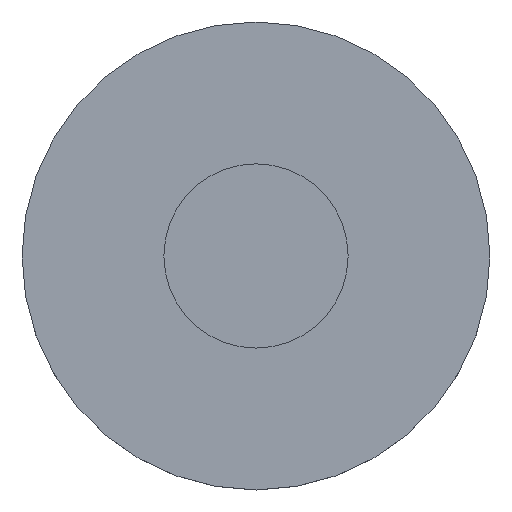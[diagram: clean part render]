
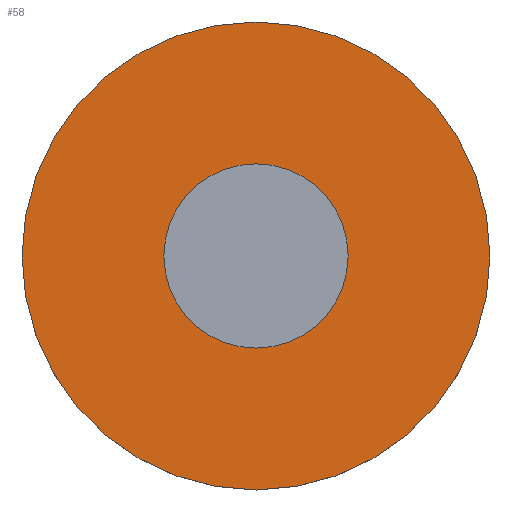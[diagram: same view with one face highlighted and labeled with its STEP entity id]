
A CAD part, top view. The second image highlights one B-rep face of the part: STEP entity #58.
In plain terms, the highlighted planar face has unit normal (0, 0, 1).
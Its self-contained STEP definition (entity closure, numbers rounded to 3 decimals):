
#58=ADVANCED_FACE('',(#72),#73,.T.);
#72=FACE_OUTER_BOUND('',#90,.T.);
#73=PLANE('',#91);
#90=EDGE_LOOP('',(#126,#127));
#91=AXIS2_PLACEMENT_3D('',#128,#129,#130);
#126=ORIENTED_EDGE('',*,*,#158,.T.);
#127=ORIENTED_EDGE('',*,*,#162,.T.);
#128=CARTESIAN_POINT('',(0.0,0.0,4.5));
#129=DIRECTION('',(0.0,0.0,1.0));
#130=DIRECTION('',(1.0,0.0,0.0));
#158=EDGE_CURVE('',#170,#174,#176,.T.);
#162=EDGE_CURVE('',#174,#170,#181,.T.);
#170=VERTEX_POINT('',#193);
#174=VERTEX_POINT('',#198);
#176=CIRCLE('',#201,25.4);
#181=CIRCLE('',#206,25.4);
#193=CARTESIAN_POINT('',(25.4,0.0,4.5));
#198=CARTESIAN_POINT('',(-25.4,0.,4.5));
#201=AXIS2_PLACEMENT_3D('',#224,#225,#226);
#206=AXIS2_PLACEMENT_3D('',#236,#237,#238);
#224=CARTESIAN_POINT('',(0.0,0.0,4.5));
#225=DIRECTION('',(0.0,0.0,1.0));
#226=DIRECTION('',(1.0,0.0,0.0));
#236=CARTESIAN_POINT('',(0.0,0.0,4.5));
#237=DIRECTION('',(0.0,0.0,1.0));
#238=DIRECTION('',(1.0,0.0,0.0));
